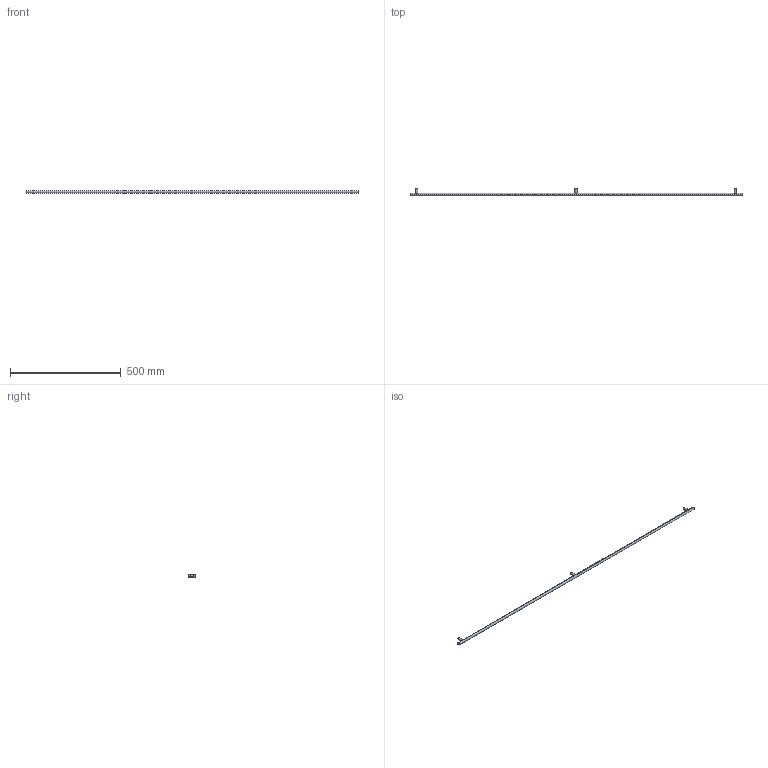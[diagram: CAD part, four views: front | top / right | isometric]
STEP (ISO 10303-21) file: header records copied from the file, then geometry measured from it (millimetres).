
FILE_DESCRIPTION( ( '' ), '1' );
FILE_NAME( 'D:/1.AUTOCAD EXPORT/Group 10/sheet_10_1/9071043.stp', '2013-10-21T10:02:40', ( '' ), ( '' ), ' ', ' ', ' ' );
FILE_SCHEMA( ( 'automotive_design' ) );
Length unit declared in the file: millimetre
Products named in the file (1): 1
Bounding box: 1500 x 35 x 12 mm (x, y, z)
Volume: 174749.7 mm3; surface area: 59482.9 mm2
Topology: 1 solids, 1 shells, 22 faces, 45 edges, 31 vertices
Faces by surface type: cylinder 14, plane 8
Entity records: 1358 total; most frequent: CARTESIAN_POINT 300, DIRECTION 104, STYLED_ITEM 99, PRESENTATION_STYLE_ASSIGNMENT 99, COLOUR_RGB 99, ORIENTED_EDGE 90, EDGE_CURVE 45, AXIS2_PLACEMENT_3D 45
